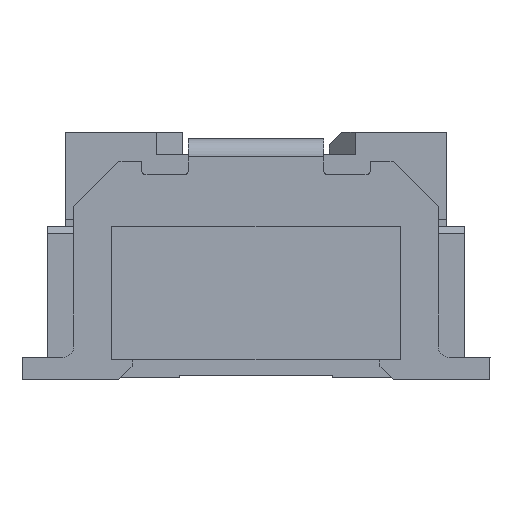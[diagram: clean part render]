
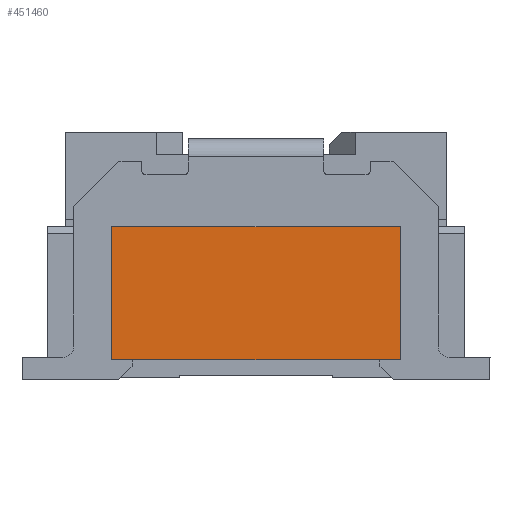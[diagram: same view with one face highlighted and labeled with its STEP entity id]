
A CAD part, left-side view. The second image highlights one B-rep face of the part: STEP entity #451460.
In plain terms, the highlighted planar face has unit normal (-1, 0, 0).
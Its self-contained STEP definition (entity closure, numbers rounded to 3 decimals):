
#435650=CARTESIAN_POINT('',(-6.893,-0.02,
-3.22));
#435660=VERTEX_POINT('',#435650);
#435690=CARTESIAN_POINT('',(-6.893,-0.02,
-5.031));
#435700=DIRECTION('',(0.,0.,-1.));
#435710=VECTOR('',#435700,1.);
#435720=LINE('',#435690,#435710);
#435730=CARTESIAN_POINT('',(-6.893,-0.02,
3.18));
#435740=VERTEX_POINT('',#435730);
#435750=EDGE_CURVE('',#435740,#435660,#435720,.T.);
#450640=CARTESIAN_POINT('',(-6.893,2.93,
-3.22));
#450650=VERTEX_POINT('',#450640);
#450680=CARTESIAN_POINT('',(-6.893,-0.507,
-3.22));
#450690=DIRECTION('',(0.,-1.,0.));
#450700=VECTOR('',#450690,1.);
#450710=LINE('',#450680,#450700);
#450720=EDGE_CURVE('',#450650,#435660,#450710,.T.);
#450960=CARTESIAN_POINT('',(-6.893,-0.507,
3.18));
#450970=DIRECTION('',(0.,1.,0.));
#450980=VECTOR('',#450970,1.);
#450990=LINE('',#450960,#450980);
#451000=CARTESIAN_POINT('',(-6.893,2.93,
3.18));
#451010=VERTEX_POINT('',#451000);
#451020=EDGE_CURVE('',#435740,#451010,#450990,.T.);
#451300=CARTESIAN_POINT('',(-6.893,2.93,
4.88));
#451310=DIRECTION('',(-1.,0.,0.));
#451320=DIRECTION('',(0.,1.,0.));
#451330=AXIS2_PLACEMENT_3D('',#451300,#451310,#451320);
#451340=PLANE('',#451330);
#451350=ORIENTED_EDGE('',*,*,#435750,.F.);
#451360=ORIENTED_EDGE('',*,*,#450720,.T.);
#451370=CARTESIAN_POINT('',(-6.893,2.93,
-5.031));
#451380=DIRECTION('',(0.,0.,-1.));
#451390=VECTOR('',#451380,1.);
#451400=LINE('',#451370,#451390);
#451410=EDGE_CURVE('',#451010,#450650,#451400,.T.);
#451420=ORIENTED_EDGE('',*,*,#451410,.T.);
#451430=ORIENTED_EDGE('',*,*,#451020,.T.);
#451440=EDGE_LOOP('',(#451430,#451420,#451360,#451350));
#451450=FACE_OUTER_BOUND('',#451440,.T.);
#451460=ADVANCED_FACE('',(#451450),#451340,.T.);
